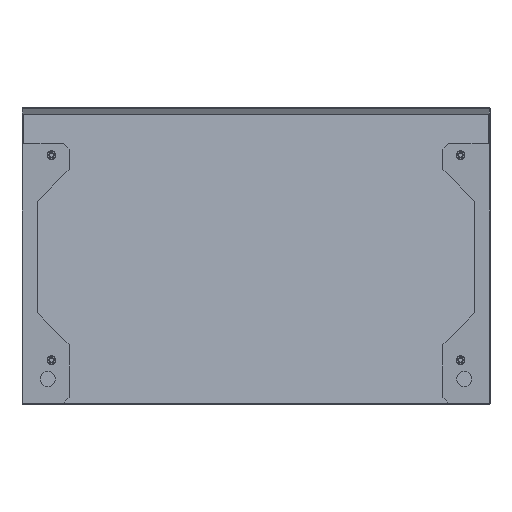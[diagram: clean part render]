
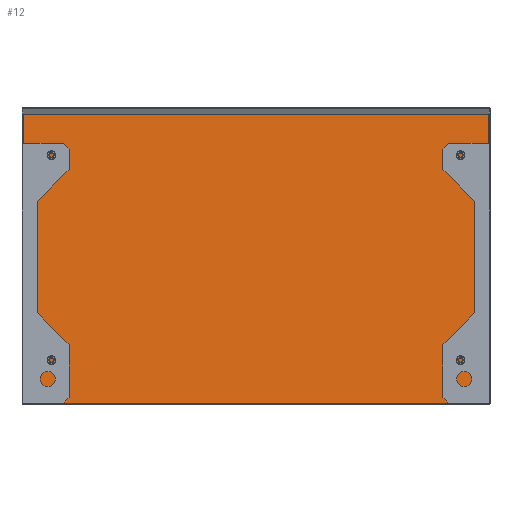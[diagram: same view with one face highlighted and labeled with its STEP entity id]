
A CAD part, front view. The second image highlights one B-rep face of the part: STEP entity #12.
In plain terms, the highlighted planar face has unit normal (0, -0.998, 0.065).
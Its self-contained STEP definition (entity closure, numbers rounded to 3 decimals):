
#12 = ADVANCED_FACE ( 'NONE', ( #643 ), #2548, .F. ) ;
#323 = EDGE_CURVE ( 'NONE', #3152, #3154, #4120, .T. ) ;
#324 = EDGE_CURVE ( 'NONE', #3154, #3153, #4123, .T. ) ;
#325 = EDGE_CURVE ( 'NONE', #3151, #3152, #4126, .T. ) ;
#326 = EDGE_CURVE ( 'NONE', #3153, #3151, #4129, .T. ) ;
#607 = VECTOR ( 'NONE', #4131, 1000. ) ;
#609 = VECTOR ( 'NONE', #4128, 1000. ) ;
#610 = VECTOR ( 'NONE', #4125, 1000. ) ;
#611 = VECTOR ( 'NONE', #4122, 1000. ) ;
#643 = FACE_OUTER_BOUND ( 'NONE', #2212, .T. ) ;
#668 = AXIS2_PLACEMENT_3D ( 'NONE', #2549, #2550, #2551 ) ;
#1540 = CARTESIAN_POINT ( 'NONE',  ( -2., 57.441, 502.165 ) ) ;
#1541 = CARTESIAN_POINT ( 'NONE',  ( -2., 24.925, 1.961 ) ) ;
#1542 = CARTESIAN_POINT ( 'NONE',  ( -808., 57.441, 502.165 ) ) ;
#1543 = CARTESIAN_POINT ( 'NONE',  ( -808., 24.925, 1.961 ) ) ;
#2212 = EDGE_LOOP ( 'NONE', ( #2717, #2715, #2716, #2714 ) ) ;
#2548 = PLANE ( 'NONE',  #668 ) ;
#2549 = CARTESIAN_POINT ( 'NONE',  ( -810., 57.556, 503.931 ) ) ;
#2550 = DIRECTION ( 'NONE',  ( 0., 0.998, -0.065 ) ) ;
#2551 = DIRECTION ( 'NONE',  ( 0., 0.065, 0.998 ) ) ;
#2714 = ORIENTED_EDGE ( 'NONE', *, *, #326, .F. ) ;
#2715 = ORIENTED_EDGE ( 'NONE', *, *, #323, .F. ) ;
#2716 = ORIENTED_EDGE ( 'NONE', *, *, #325, .F. ) ;
#2717 = ORIENTED_EDGE ( 'NONE', *, *, #324, .F. ) ;
#3151 = VERTEX_POINT ( 'NONE', #1540 ) ;
#3152 = VERTEX_POINT ( 'NONE', #1541 ) ;
#3153 = VERTEX_POINT ( 'NONE', #1542 ) ;
#3154 = VERTEX_POINT ( 'NONE', #1543 ) ;
#4120 = LINE ( 'NONE', #4121, #611 ) ;
#4121 = CARTESIAN_POINT ( 'NONE',  ( -810., 24.925, 1.961 ) ) ;
#4122 = DIRECTION ( 'NONE',  ( -1., 0., 0. ) ) ;
#4123 = LINE ( 'NONE', #4124, #610 ) ;
#4124 = CARTESIAN_POINT ( 'NONE',  ( -808., 57.556, 503.931 ) ) ;
#4125 = DIRECTION ( 'NONE',  ( 0., 0.065, 0.998 ) ) ;
#4126 = LINE ( 'NONE', #4127, #609 ) ;
#4127 = CARTESIAN_POINT ( 'NONE',  ( -2., 57.556, 503.931 ) ) ;
#4128 = DIRECTION ( 'NONE',  ( 0., -0.065, -0.998 ) ) ;
#4129 = LINE ( 'NONE', #4130, #607 ) ;
#4130 = CARTESIAN_POINT ( 'NONE',  ( -810., 57.441, 502.165 ) ) ;
#4131 = DIRECTION ( 'NONE',  ( 1., 0., 0. ) ) ;
